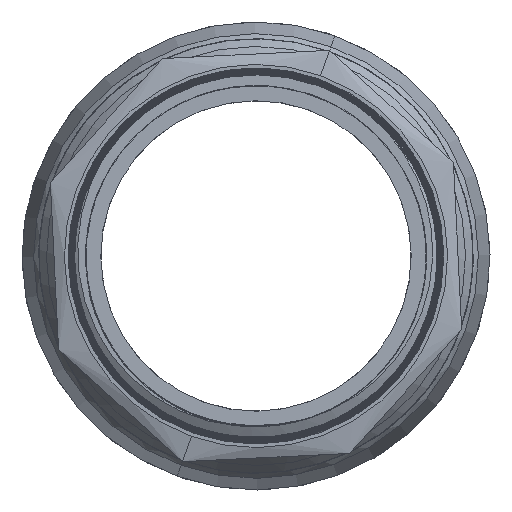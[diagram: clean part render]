
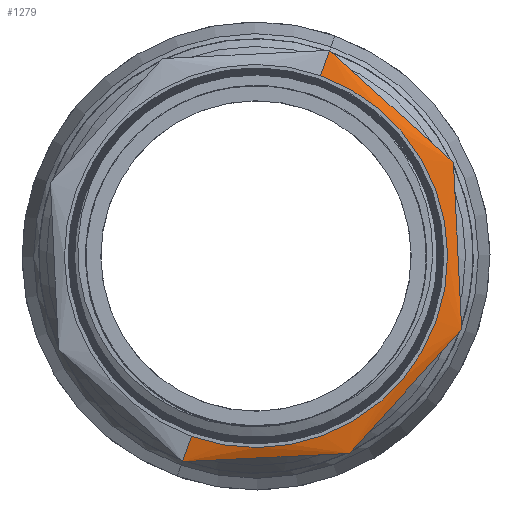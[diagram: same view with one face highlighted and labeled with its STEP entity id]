
A CAD part, left-side view. The second image highlights one B-rep face of the part: STEP entity #1279.
In plain terms, the highlighted conical face has half-angle 80.049 degrees and reference radius 24.687 mm.
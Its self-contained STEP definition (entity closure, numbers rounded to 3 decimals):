
#225 = EDGE_CURVE ( 'NONE', #654, #658, #13489, .T. ) ;
#449 = ORIENTED_EDGE ( 'NONE', *, *, #225, .F. ) ;
#450 = ORIENTED_EDGE ( 'NONE', *, *, #1280, .T. ) ;
#451 = ORIENTED_EDGE ( 'NONE', *, *, #1281, .T. ) ;
#452 = ORIENTED_EDGE ( 'NONE', *, *, #1282, .T. ) ;
#453 = ORIENTED_EDGE ( 'NONE', *, *, #1283, .T. ) ;
#454 = ORIENTED_EDGE ( 'NONE', *, *, #1284, .T. ) ;
#455 = ORIENTED_EDGE ( 'NONE', *, *, #1285, .F. ) ;
#654 = VERTEX_POINT ( 'NONE', #5528 ) ;
#658 = VERTEX_POINT ( 'NONE', #5532 ) ;
#667 = VERTEX_POINT ( 'NONE', #5541 ) ;
#668 = VERTEX_POINT ( 'NONE', #5542 ) ;
#669 = VERTEX_POINT ( 'NONE', #5543 ) ;
#670 = VERTEX_POINT ( 'NONE', #5544 ) ;
#671 = VERTEX_POINT ( 'NONE', #5545 ) ;
#1028 = EDGE_LOOP ( 'NONE', ( #449, #450, #451, #452, #453, #454, #455 ) ) ;
#1279 = ADVANCED_FACE ( 'NONE', ( #5713 ), #5235, .T. ) ;
#1280 = EDGE_CURVE ( 'NONE', #654, #667, #5719, .T. ) ;
#1281 = EDGE_CURVE ( 'NONE', #667, #668, #4517, .T. ) ;
#1282 = EDGE_CURVE ( 'NONE', #668, #669, #4518, .T. ) ;
#1283 = EDGE_CURVE ( 'NONE', #669, #670, #4519, .T. ) ;
#1284 = EDGE_CURVE ( 'NONE', #670, #671, #4520, .T. ) ;
#1285 = EDGE_CURVE ( 'NONE', #658, #671, #5740, .T. ) ;
#4517 = B_SPLINE_CURVE_WITH_KNOTS ( 'NONE', 3,
 ( #5718, #5717, #5723, #5724, #5725 ),
 .UNSPECIFIED., .F., .F.,
 ( 4, 1, 4 ),
 ( 0., 0.011, 0.022 ),
 .UNSPECIFIED. ) ;
#4518 = B_SPLINE_CURVE_WITH_KNOTS ( 'NONE', 3,
 ( #5715, #5722, #5728, #5729, #5730 ),
 .UNSPECIFIED., .F., .F.,
 ( 4, 1, 4 ),
 ( 0., 0.011, 0.022 ),
 .UNSPECIFIED. ) ;
#4519 = B_SPLINE_CURVE_WITH_KNOTS ( 'NONE', 3,
 ( #5727, #5726, #5733, #5734, #5735 ),
 .UNSPECIFIED., .F., .F.,
 ( 4, 1, 4 ),
 ( 0., 0.011, 0.022 ),
 .UNSPECIFIED. ) ;
#4520 = B_SPLINE_CURVE_WITH_KNOTS ( 'NONE', 3,
 ( #5732, #5731, #5737, #5738, #5739 ),
 .UNSPECIFIED., .F., .F.,
 ( 4, 1, 4 ),
 ( 0., 0.011, 0.022 ),
 .UNSPECIFIED. ) ;
#4676 = CARTESIAN_POINT ( 'NONE',  ( -776.605, 0., 71.953 ) ) ;
#4677 = DIRECTION ( 'NONE',  ( -1., 0., 0. ) ) ;
#4678 = DIRECTION ( 'NONE',  ( 0., -0.337, 0.942 ) ) ;
#5207 = VECTOR ( 'NONE', #5721, 1000. ) ;
#5210 = VECTOR ( 'NONE', #5742, 1000. ) ;
#5235 = CONICAL_SURFACE ( 'NONE', #5236, 24.687, 1.397 ) ;
#5236 = AXIS2_PLACEMENT_3D ( 'NONE', #5716, #5714, #5711 ) ;
#5528 = CARTESIAN_POINT ( 'NONE',  ( -776.605, 8.315, 48.709 ) ) ;
#5532 = CARTESIAN_POINT ( 'NONE',  ( -776.605, -8.315, 95.197 ) ) ;
#5541 = CARTESIAN_POINT ( 'NONE',  ( -775.999, 9.479, 45.455 ) ) ;
#5542 = CARTESIAN_POINT ( 'NONE',  ( -775.999, -12.034, 46.513 ) ) ;
#5543 = CARTESIAN_POINT ( 'NONE',  ( -775.999, -26.498, 62.474 ) ) ;
#5544 = CARTESIAN_POINT ( 'NONE',  ( -775.999, -25.439, 83.987 ) ) ;
#5545 = CARTESIAN_POINT ( 'NONE',  ( -775.999, -9.479, 98.451 ) ) ;
#5711 = DIRECTION ( 'NONE',  ( 0., -0.337, 0.942 ) ) ;
#5713 = FACE_OUTER_BOUND ( 'NONE', #1028, .T. ) ;
#5714 = DIRECTION ( 'NONE',  ( 1., 0., 0. ) ) ;
#5715 = CARTESIAN_POINT ( 'NONE',  ( -775.999, -12.034, 46.513 ) ) ;
#5716 = CARTESIAN_POINT ( 'NONE',  ( -776.605, 0., 71.953 ) ) ;
#5717 = CARTESIAN_POINT ( 'NONE',  ( -776.24, 5.894, 45.631 ) ) ;
#5718 = CARTESIAN_POINT ( 'NONE',  ( -775.999, 9.479, 45.455 ) ) ;
#5719 = LINE ( 'NONE', #5720, #5207 ) ;
#5720 = CARTESIAN_POINT ( 'NONE',  ( -776.605, 8.315, 48.709 ) ) ;
#5721 = DIRECTION ( 'NONE',  ( 0.173, 0.332, -0.927 ) ) ;
#5722 = CARTESIAN_POINT ( 'NONE',  ( -776.24, -14.445, 49.173 ) ) ;
#5723 = CARTESIAN_POINT ( 'NONE',  ( -776.51, -1.278, 45.984 ) ) ;
#5724 = CARTESIAN_POINT ( 'NONE',  ( -776.24, -8.449, 46.337 ) ) ;
#5725 = CARTESIAN_POINT ( 'NONE',  ( -775.999, -12.034, 46.513 ) ) ;
#5726 = CARTESIAN_POINT ( 'NONE',  ( -776.24, -26.321, 66.059 ) ) ;
#5727 = CARTESIAN_POINT ( 'NONE',  ( -775.999, -26.498, 62.474 ) ) ;
#5728 = CARTESIAN_POINT ( 'NONE',  ( -776.51, -19.266, 54.494 ) ) ;
#5729 = CARTESIAN_POINT ( 'NONE',  ( -776.24, -24.087, 59.814 ) ) ;
#5730 = CARTESIAN_POINT ( 'NONE',  ( -775.999, -26.498, 62.474 ) ) ;
#5731 = CARTESIAN_POINT ( 'NONE',  ( -776.24, -22.779, 86.398 ) ) ;
#5732 = CARTESIAN_POINT ( 'NONE',  ( -775.999, -25.439, 83.987 ) ) ;
#5733 = CARTESIAN_POINT ( 'NONE',  ( -776.51, -25.969, 73.23 ) ) ;
#5734 = CARTESIAN_POINT ( 'NONE',  ( -776.24, -25.616, 80.401 ) ) ;
#5735 = CARTESIAN_POINT ( 'NONE',  ( -775.999, -25.439, 83.987 ) ) ;
#5737 = CARTESIAN_POINT ( 'NONE',  ( -776.51, -17.459, 91.219 ) ) ;
#5738 = CARTESIAN_POINT ( 'NONE',  ( -776.24, -12.139, 96.04 ) ) ;
#5739 = CARTESIAN_POINT ( 'NONE',  ( -775.999, -9.479, 98.451 ) ) ;
#5740 = LINE ( 'NONE', #5741, #5210 ) ;
#5741 = CARTESIAN_POINT ( 'NONE',  ( -776.605, -8.315, 95.197 ) ) ;
#5742 = DIRECTION ( 'NONE',  ( 0.173, -0.332, 0.927 ) ) ;
#13489 = CIRCLE ( 'NONE', #13491, 24.687 ) ;
#13491 = AXIS2_PLACEMENT_3D ( 'NONE', #4676, #4677, #4678 ) ;
